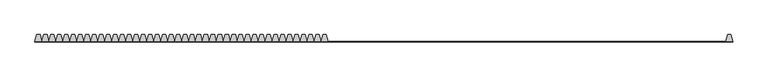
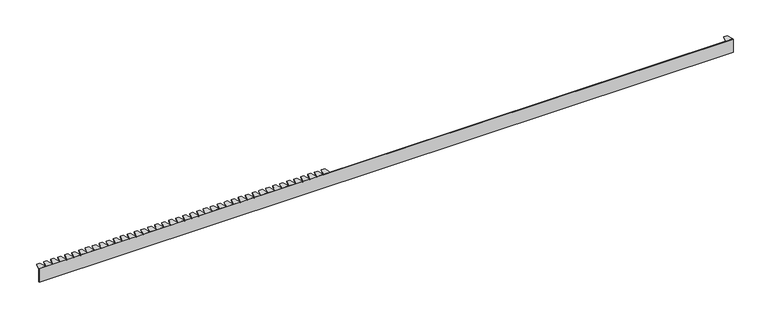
"""IFC4 building model written with IfcOpenShell, lengths in millimetres: duct fitting geometry, Частичная крышка шириной 40 мм - для кабель-канала DLP 65x195 - 2м - белый : 40мм."""

from ifc_helpers import new_model, si_unit, frame, origin, place, context, project, spatial, polyline, outline, extrude, source, transform, mapped, element, save


def duct_fitting_f73fdfc4(model_context):
    return source(origin(), model_context, "Body", "SweptSolid", [
        extrude(outline(polyline([(-165.3589838, 20.0), (-160.0, 0.0), (-180.0, 0.0), (-174.2650923, 20.0), (-165.3589838, 20.0)])), frame((0.0, 0.0, 18.0), z_axis=(0.0, 0.0, 1.0), x_axis=(1.0, 0.0, 0.0)), (0.0, 0.0, 1.0), 2.0),
        extrude(outline(polyline([(-185.3589838, 20.0), (-180.0, 0.0), (-200.0, 0.0), (-194.2650923, 20.0), (-185.3589838, 20.0)])), frame((0.0, 0.0, 18.0), z_axis=(0.0, 0.0, 1.0), x_axis=(1.0, 0.0, 0.0)), (0.0, 0.0, 1.0), 2.0),
        extrude(outline(polyline([(-205.3589838, 20.0), (-200.0, 0.0), (-220.0, 0.0), (-214.2650923, 20.0), (-205.3589838, 20.0)])), frame((0.0, 0.0, 18.0), z_axis=(0.0, 0.0, 1.0), x_axis=(1.0, 0.0, 0.0)), (0.0, 0.0, 1.0), 2.0),
        extrude(outline(polyline([(-225.3589838, 20.0), (-220.0, 0.0), (-240.0, 0.0), (-234.2650923, 20.0), (-225.3589838, 20.0)])), frame((0.0, 0.0, 18.0), z_axis=(0.0, 0.0, 1.0), x_axis=(1.0, 0.0, 0.0)), (0.0, 0.0, 1.0), 2.0),
        extrude(outline(polyline([(-245.3589838, 20.0), (-240.0, 0.0), (-260.0, 0.0), (-254.2650923, 20.0), (-245.3589838, 20.0)])), frame((0.0, 0.0, 18.0), z_axis=(0.0, 0.0, 1.0), x_axis=(1.0, 0.0, 0.0)), (0.0, 0.0, 1.0), 2.0),
        extrude(outline(polyline([(-265.3589838, 20.0), (-260.0, 0.0), (-280.0, 0.0), (-274.2650923, 20.0), (-265.3589838, 20.0)])), frame((0.0, 0.0, 18.0), z_axis=(0.0, 0.0, 1.0), x_axis=(1.0, 0.0, 0.0)), (0.0, 0.0, 1.0), 2.0),
        extrude(outline(polyline([(-285.3589838, 20.0), (-280.0, 0.0), (-300.0, 0.0), (-294.2650923, 20.0), (-285.3589838, 20.0)])), frame((0.0, 0.0, 18.0), z_axis=(0.0, 0.0, 1.0), x_axis=(1.0, 0.0, 0.0)), (0.0, 0.0, 1.0), 2.0),
        extrude(outline(polyline([(-305.3589838, 20.0), (-300.0, 0.0), (-320.0, 0.0), (-314.2650923, 20.0), (-305.3589838, 20.0)])), frame((0.0, 0.0, 18.0), z_axis=(0.0, 0.0, 1.0), x_axis=(1.0, 0.0, 0.0)), (0.0, 0.0, 1.0), 2.0),
        extrude(outline(polyline([(-325.3589838, 20.0), (-320.0, 0.0), (-340.0, 0.0), (-334.2650923, 20.0), (-325.3589838, 20.0)])), frame((0.0, 0.0, 18.0), z_axis=(0.0, 0.0, 1.0), x_axis=(1.0, 0.0, 0.0)), (0.0, 0.0, 1.0), 2.0),
        extrude(outline(polyline([(-345.3589838, 20.0), (-340.0, 0.0), (-360.0, 0.0), (-354.2650923, 20.0), (-345.3589838, 20.0)])), frame((0.0, 0.0, 18.0), z_axis=(0.0, 0.0, 1.0), x_axis=(1.0, 0.0, 0.0)), (0.0, 0.0, 1.0), 2.0),
        extrude(outline(polyline([(-365.3589838, 20.0), (-360.0, 0.0), (-380.0, 0.0), (-374.2650923, 20.0), (-365.3589838, 20.0)])), frame((0.0, 0.0, 18.0), z_axis=(0.0, 0.0, 1.0), x_axis=(1.0, 0.0, 0.0)), (0.0, 0.0, 1.0), 2.0),
        extrude(outline(polyline([(-385.3589838, 20.0), (-380.0, 0.0), (-400.0, 0.0), (-394.2650923, 20.0), (-385.3589838, 20.0)])), frame((0.0, 0.0, 18.0), z_axis=(0.0, 0.0, 1.0), x_axis=(1.0, 0.0, 0.0)), (0.0, 0.0, 1.0), 2.0),
        extrude(outline(polyline([(-405.3589838, 20.0), (-400.0, 0.0), (-420.0, 0.0), (-414.2650923, 20.0), (-405.3589838, 20.0)])), frame((0.0, 0.0, 18.0), z_axis=(0.0, 0.0, 1.0), x_axis=(1.0, 0.0, 0.0)), (0.0, 0.0, 1.0), 2.0),
        extrude(outline(polyline([(-425.3589838, 20.0), (-420.0, 0.0), (-440.0, 0.0), (-434.2650923, 20.0), (-425.3589838, 20.0)])), frame((0.0, 0.0, 18.0), z_axis=(0.0, 0.0, 1.0), x_axis=(1.0, 0.0, 0.0)), (0.0, 0.0, 1.0), 2.0),
        extrude(outline(polyline([(-445.3589838, 20.0), (-440.0, 0.0), (-460.0, 0.0), (-454.2650923, 20.0), (-445.3589838, 20.0)])), frame((0.0, 0.0, 18.0), z_axis=(0.0, 0.0, 1.0), x_axis=(1.0, 0.0, 0.0)), (0.0, 0.0, 1.0), 2.0),
        extrude(outline(polyline([(-465.3589838, 20.0), (-460.0, 0.0), (-480.0, 0.0), (-474.2650923, 20.0), (-465.3589838, 20.0)])), frame((0.0, 0.0, 18.0), z_axis=(0.0, 0.0, 1.0), x_axis=(1.0, 0.0, 0.0)), (0.0, 0.0, 1.0), 2.0),
        extrude(outline(polyline([(-485.3589838, 20.0), (-480.0, 0.0), (-500.0, 0.0), (-494.2650923, 20.0), (-485.3589838, 20.0)])), frame((0.0, 0.0, 18.0), z_axis=(0.0, 0.0, 1.0), x_axis=(1.0, 0.0, 0.0)), (0.0, 0.0, 1.0), 2.0),
        extrude(outline(polyline([(-505.3589838, 20.0), (-500.0, 0.0), (-520.0, 0.0), (-514.2650923, 20.0), (-505.3589838, 20.0)])), frame((0.0, 0.0, 18.0), z_axis=(0.0, 0.0, 1.0), x_axis=(1.0, 0.0, 0.0)), (0.0, 0.0, 1.0), 2.0),
        extrude(outline(polyline([(-525.3589838, 20.0), (-520.0, 0.0), (-540.0, 0.0), (-534.2650923, 20.0), (-525.3589838, 20.0)])), frame((0.0, 0.0, 18.0), z_axis=(0.0, 0.0, 1.0), x_axis=(1.0, 0.0, 0.0)), (0.0, 0.0, 1.0), 2.0),
        extrude(outline(polyline([(-545.3589838, 20.0), (-540.0, 0.0), (-560.0, 0.0), (-554.2650923, 20.0), (-545.3589838, 20.0)])), frame((0.0, 0.0, 18.0), z_axis=(0.0, 0.0, 1.0), x_axis=(1.0, 0.0, 0.0)), (0.0, 0.0, 1.0), 2.0),
        extrude(outline(polyline([(-565.3589838, 20.0), (-560.0, 0.0), (-580.0, 0.0), (-574.2650923, 20.0), (-565.3589838, 20.0)])), frame((0.0, 0.0, 18.0), z_axis=(0.0, 0.0, 1.0), x_axis=(1.0, 0.0, 0.0)), (0.0, 0.0, 1.0), 2.0),
        extrude(outline(polyline([(-585.3589838, 20.0), (-580.0, 0.0), (-600.0, 0.0), (-594.2650923, 20.0), (-585.3589838, 20.0)])), frame((0.0, 0.0, 18.0), z_axis=(0.0, 0.0, 1.0), x_axis=(1.0, 0.0, 0.0)), (0.0, 0.0, 1.0), 2.0),
        extrude(outline(polyline([(-605.3589838, 20.0), (-600.0, 0.0), (-620.0, 0.0), (-614.2650923, 20.0), (-605.3589838, 20.0)])), frame((0.0, 0.0, 18.0), z_axis=(0.0, 0.0, 1.0), x_axis=(1.0, 0.0, 0.0)), (0.0, 0.0, 1.0), 2.0),
        extrude(outline(polyline([(-625.3589838, 20.0), (-620.0, 0.0), (-640.0, 0.0), (-634.2650923, 20.0), (-625.3589838, 20.0)])), frame((0.0, 0.0, 18.0), z_axis=(0.0, 0.0, 1.0), x_axis=(1.0, 0.0, 0.0)), (0.0, 0.0, 1.0), 2.0),
        extrude(outline(polyline([(-645.3589838, 20.0), (-640.0, 0.0), (-660.0, 0.0), (-654.2650923, 20.0), (-645.3589838, 20.0)])), frame((0.0, 0.0, 18.0), z_axis=(0.0, 0.0, 1.0), x_axis=(1.0, 0.0, 0.0)), (0.0, 0.0, 1.0), 2.0),
        extrude(outline(polyline([(-665.3589838, 20.0), (-660.0, 0.0), (-680.0, 0.0), (-674.2650923, 20.0), (-665.3589838, 20.0)])), frame((0.0, 0.0, 18.0), z_axis=(0.0, 0.0, 1.0), x_axis=(1.0, 0.0, 0.0)), (0.0, 0.0, 1.0), 2.0),
        extrude(outline(polyline([(-685.3589838, 20.0), (-680.0, 0.0), (-700.0, 0.0), (-694.2650923, 20.0), (-685.3589838, 20.0)])), frame((0.0, 0.0, 18.0), z_axis=(0.0, 0.0, 1.0), x_axis=(1.0, 0.0, 0.0)), (0.0, 0.0, 1.0), 2.0),
        extrude(outline(polyline([(-705.3589838, 20.0), (-700.0, 0.0), (-720.0, 0.0), (-714.2650923, 20.0), (-705.3589838, 20.0)])), frame((0.0, 0.0, 18.0), z_axis=(0.0, 0.0, 1.0), x_axis=(1.0, 0.0, 0.0)), (0.0, 0.0, 1.0), 2.0),
        extrude(outline(polyline([(-725.3589838, 20.0), (-720.0, 0.0), (-740.0, 0.0), (-734.2650923, 20.0), (-725.3589838, 20.0)])), frame((0.0, 0.0, 18.0), z_axis=(0.0, 0.0, 1.0), x_axis=(1.0, 0.0, 0.0)), (0.0, 0.0, 1.0), 2.0),
        extrude(outline(polyline([(-745.3589838, 20.0), (-740.0, 0.0), (-760.0, 0.0), (-754.2650923, 20.0), (-745.3589838, 20.0)])), frame((0.0, 0.0, 18.0), z_axis=(0.0, 0.0, 1.0), x_axis=(1.0, 0.0, 0.0)), (0.0, 0.0, 1.0), 2.0),
        extrude(outline(polyline([(-765.3589838, 20.0), (-760.0, 0.0), (-780.0, 0.0), (-774.2650923, 20.0), (-765.3589838, 20.0)])), frame((0.0, 0.0, 18.0), z_axis=(0.0, 0.0, 1.0), x_axis=(1.0, 0.0, 0.0)), (0.0, 0.0, 1.0), 2.0),
        extrude(outline(polyline([(-785.3589838, 20.0), (-780.0, 0.0), (-800.0, 0.0), (-794.2650923, 20.0), (-785.3589838, 20.0)])), frame((0.0, 0.0, 18.0), z_axis=(0.0, 0.0, 1.0), x_axis=(1.0, 0.0, 0.0)), (0.0, 0.0, 1.0), 2.0),
        extrude(outline(polyline([(-805.3589838, 20.0), (-800.0, 0.0), (-820.0, 0.0), (-814.2650923, 20.0), (-805.3589838, 20.0)])), frame((0.0, 0.0, 18.0), z_axis=(0.0, 0.0, 1.0), x_axis=(1.0, 0.0, 0.0)), (0.0, 0.0, 1.0), 2.0),
        extrude(outline(polyline([(-825.3589838, 20.0), (-820.0, 0.0), (-840.0, 0.0), (-834.2650923, 20.0), (-825.3589838, 20.0)])), frame((0.0, 0.0, 18.0), z_axis=(0.0, 0.0, 1.0), x_axis=(1.0, 0.0, 0.0)), (0.0, 0.0, 1.0), 2.0),
        extrude(outline(polyline([(-845.3589838, 20.0), (-840.0, 0.0), (-860.0, 0.0), (-854.2650923, 20.0), (-845.3589838, 20.0)])), frame((0.0, 0.0, 18.0), z_axis=(0.0, 0.0, 1.0), x_axis=(1.0, 0.0, 0.0)), (0.0, 0.0, 1.0), 2.0),
        extrude(outline(polyline([(-865.3589838, 20.0), (-860.0, 0.0), (-880.0, 0.0), (-874.2650923, 20.0), (-865.3589838, 20.0)])), frame((0.0, 0.0, 18.0), z_axis=(0.0, 0.0, 1.0), x_axis=(1.0, 0.0, 0.0)), (0.0, 0.0, 1.0), 2.0),
        extrude(outline(polyline([(-885.3589838, 20.0), (-880.0, 0.0), (-900.0, 0.0), (-894.2650923, 20.0), (-885.3589838, 20.0)])), frame((0.0, 0.0, 18.0), z_axis=(0.0, 0.0, 1.0), x_axis=(1.0, 0.0, 0.0)), (0.0, 0.0, 1.0), 2.0),
        extrude(outline(polyline([(-905.3589838, 20.0), (-900.0, 0.0), (-920.0, 0.0), (-914.2650923, 20.0), (-905.3589838, 20.0)])), frame((0.0, 0.0, 18.0), z_axis=(0.0, 0.0, 1.0), x_axis=(1.0, 0.0, 0.0)), (0.0, 0.0, 1.0), 2.0),
        extrude(outline(polyline([(-925.3589838, 20.0), (-920.0, 0.0), (-940.0, 0.0), (-934.2650923, 20.0), (-925.3589838, 20.0)])), frame((0.0, 0.0, 18.0), z_axis=(0.0, 0.0, 1.0), x_axis=(1.0, 0.0, 0.0)), (0.0, 0.0, 1.0), 2.0),
        extrude(outline(polyline([(-945.3589838, 20.0), (-940.0, 0.0), (-960.0, 0.0), (-954.2650923, 20.0), (-945.3589838, 20.0)])), frame((0.0, 0.0, 18.0), z_axis=(0.0, 0.0, 1.0), x_axis=(1.0, 0.0, 0.0)), (0.0, 0.0, 1.0), 2.0),
        extrude(outline(polyline([(-965.3589838, 20.0), (-960.0, 0.0), (-980.0, 0.0), (-974.2650923, 20.0), (-965.3589838, 20.0)])), frame((0.0, 0.0, 18.0), z_axis=(0.0, 0.0, 1.0), x_axis=(1.0, 0.0, 0.0)), (0.0, 0.0, 1.0), 2.0),
        extrude(outline(polyline([(994.6410162, 20.0), (1000.0, 0.0), (980.0, 0.0), (985.7349077, 20.0), (994.6410162, 20.0)])), frame((0.0, 0.0, 18.0), z_axis=(0.0, 0.0, 1.0), x_axis=(1.0, 0.0, 0.0)), (0.0, 0.0, 1.0), 2.0),
        extrude(outline(polyline([(-985.3589838, 20.0), (-980.0, 0.0), (-1000.0, 0.0), (-994.2650923, 20.0), (-985.3589838, 20.0)])), frame((0.0, 0.0, 18.0), z_axis=(0.0, 0.0, 1.0), x_axis=(1.0, 0.0, 0.0)), (0.0, 0.0, 1.0), 2.0),
        extrude(outline(polyline([(-1000.0, -1.0), (-1000.0, 1.0), (1000.0, 1.0), (1000.0, -1.0), (-1000.0, -1.0)])), frame((0.0, 0.0, -20.0), z_axis=(0.0, 0.0, 1.0), x_axis=(1.0, 0.0, 0.0)), (0.0, 0.0, 1.0), 40.0),
    ])


if __name__ == "__main__":
    model = new_model("IFC4")
    model_context = context("Model", 3, world=origin())
    ifc_project = project(units=[si_unit("LENGTHUNIT", "METRE", prefix="MILLI")], contexts=[model_context])
    site = spatial("IfcSite", under=ifc_project)
    building = spatial("IfcBuilding", under=site)
    placement = place(None, origin())
    duct_fitting_shape = duct_fitting_f73fdfc4(model_context)
    element("IfcDuctFitting", 1, ObjectType="Частичная крышка шириной 40 мм - для кабель-канала DLP 65x195 - 2м - белый : 40мм", at=placement, inside=building, context=model_context, shape_type="MappedRepresentation", body=[
        mapped(duct_fitting_shape, transform((0.0, 0.0, 0.0), x_axis=(1.0, 0.0, 0.0), y_axis=(0.0, 1.0, 0.0), z_axis=(0.0, 0.0, 1.0))),
    ])
    save(model, "model.ifc")
